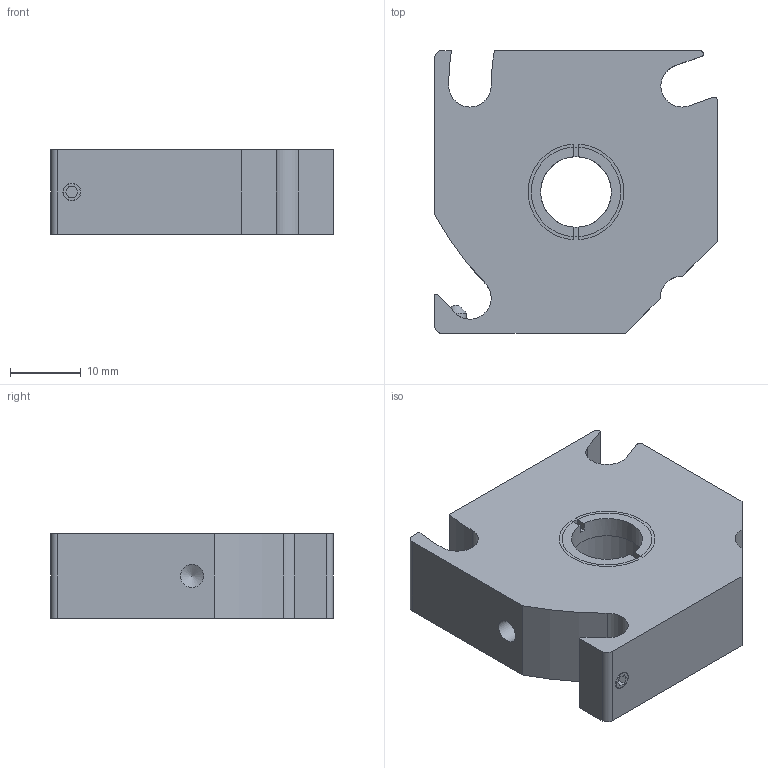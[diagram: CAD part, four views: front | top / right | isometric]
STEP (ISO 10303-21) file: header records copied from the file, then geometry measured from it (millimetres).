
FILE_DESCRIPTION(/* description */ (''),/* implementation_level */ '2;1');
FILE_NAME(/* name */ '\\fs001\share\Public_Div\41_開発部\開発\①開発案件\1_ケージシステム\図面\C30-SLFH-12.7\C30-SLFH-12.7_STP\C30-SLFH-12.7.stp',/* time_stamp */ '2018-07-26T10:15:02+09:00',/* author */ ('ka.nakajima'),/* organization */ (''),/* preprocessor_version */ 'ST-DEVELOPER v16.13',/* originating_system */ 'Autodesk Inventor 2018',/* authorisation */ '');
FILE_SCHEMA (('AUTOMOTIVE_DESIGN { 1 0 10303 214 3 1 1 }'));
Length unit declared in the file: millimetre
Products named in the file (1): C30SLFH12.7-M02-18001_Shrinkwrap_1
Bounding box: 40 x 40 x 12 mm (x, y, z)
Volume: 14964.7 mm3; surface area: 5535.3 mm2
Topology: 1 solids, 1 shells, 101 faces, 268 edges, 177 vertices
Faces by surface type: plane 70, cylinder 25, cone 6
Full cylindrical faces by diameter (mm): 2.5 x3, 3.3 x1, 10 x2, 12.7 x1
Entity records: 3208 total; most frequent: CARTESIAN_POINT 597, DIRECTION 514, ORIENTED_EDGE 490, EDGE_CURVE 245, AXIS2_PLACEMENT_3D 172, LINE 170, VECTOR 170, VERTEX_POINT 167
